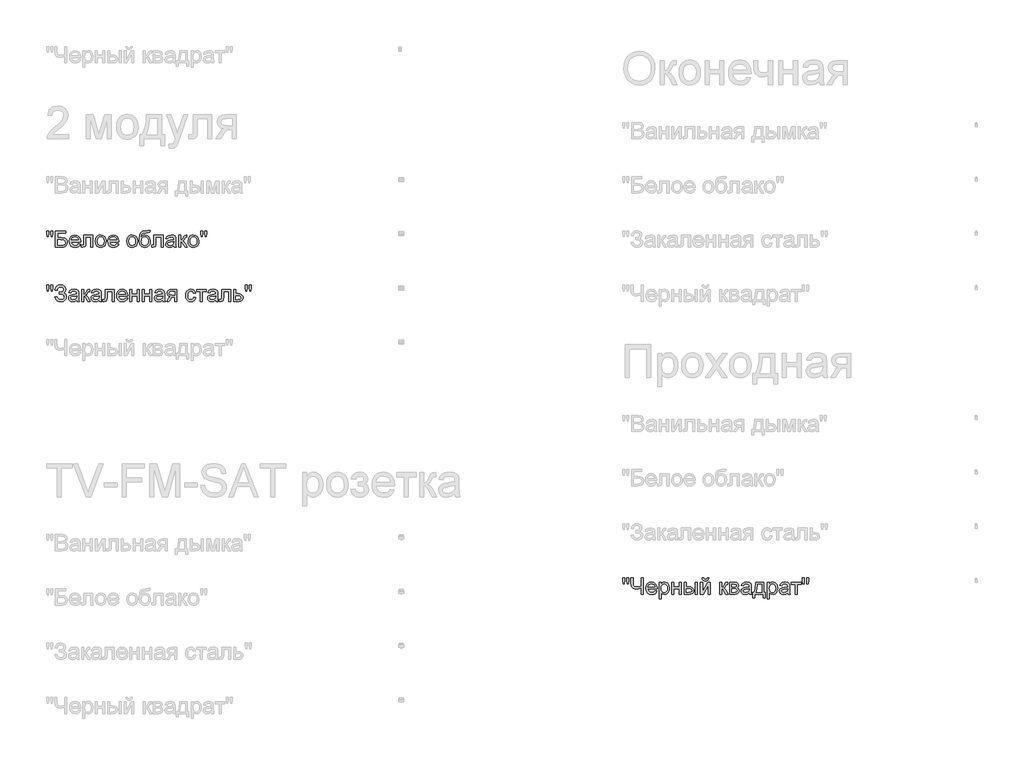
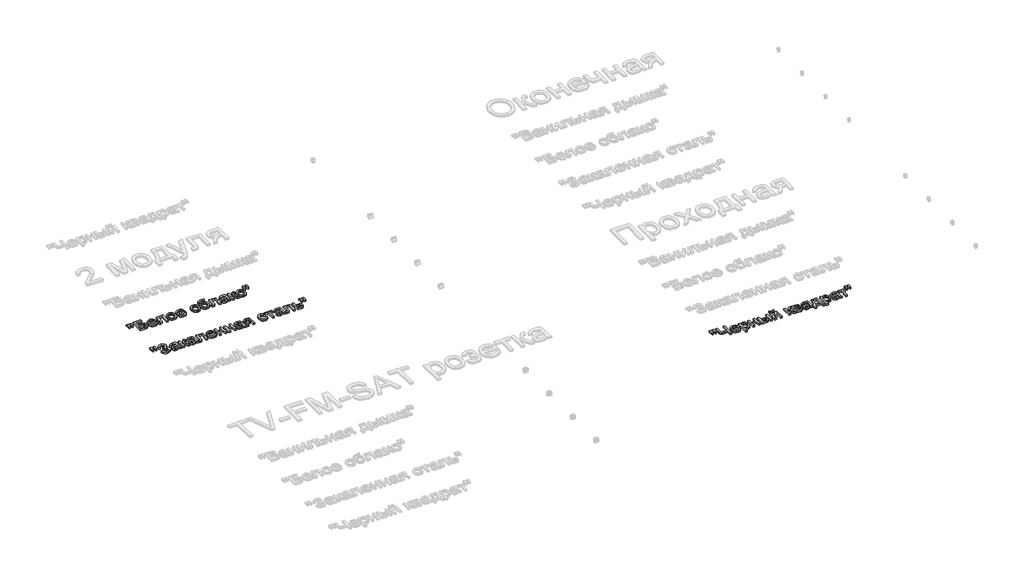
# One storey, part 22 of 168: 3 proxies.
"""IFC4 building model written with IfcOpenShell, lengths in millimetres."""

from ifc_helpers import new_model, si_unit, origin, origin_with_axes, place, context, project, spatial, polyline, outline, extrude, element, save

model = new_model("IFC4")

# Units and contexts
model_context = context("Model", 3, world=origin())
ifc_project = project(units=[si_unit("LENGTHUNIT", "METRE", prefix="MILLI")], contexts=[model_context])

# Site, building, storey
site = spatial("IfcSite", under=ifc_project)
building = spatial("IfcBuilding", under=site)
storey = spatial("IfcBuildingStorey", under=building, Name="Этаж 01", Elevation=0.0)

# Proxies
placement = place(None, origin())
element("IfcBuildingElementProxy", 1, Name="150", ObjectType="150", at=placement, inside=storey, context=model_context, shape_type="SweptSolid", body=[
    extrude(outline(polyline([(49080.1485789, -52170.3300622), (49075.550054, -52141.2305964), (49075.550054, -52116.1778325), (49094.3856121, -52116.1778325), (49094.3856121, -52141.2305964), (49090.2653338, -52170.3300622), (49080.1485789, -52170.3300622)])), origin_with_axes(), (0.0, 0.0, 1.0), 20.0),
    extrude(outline(polyline([(49117.7093306, -52170.3300622), (49113.2211703, -52141.2305964), (49113.2211703, -52116.1778325), (49132.0567284, -52116.1778325), (49132.0567284, -52141.2305964), (49127.6421445, -52170.3300622), (49117.7093306, -52170.3300622)])), origin_with_axes(), (0.0, 0.0, 1.0), 20.0),
    extrude(outline(polyline([(49157.9556209, -52116.1778325), (49252.1334117, -52116.1778325), (49252.1334117, -52135.0133907), (49176.791179, -52135.0133907), (49176.791179, -52179.7478413), (49212.0710624, -52179.7478413), (49243.157091, -52183.573814), (49253.5589544, -52189.101241), (49261.6615553, -52198.0315764), (49266.8762826, -52209.5278888), (49268.614525, -52222.7532465), (49263.6665122, -52244.2191609), (49248.8960501, -52260.5347274), (49235.6247071, -52265.2804052), (49215.4555767, -52266.8622977), (49157.9556209, -52266.8622977), (49157.9556209, -52116.1778325)]), holes=[polyline([(49176.791179, -52248.0267396), (49217.1478339, -52248.0267396), (49231.4124583, -52246.4724382), (49241.6119866, -52241.8095339), (49247.7372218, -52234.0380267), (49249.7789669, -52223.1579167), (49245.1068655, -52208.4058487), (49232.102237, -52200.533174), (49203.7201411, -52198.5833994), (49176.791179, -52198.5833994), (49176.791179, -52248.0267396)])]), origin_with_axes(), (0.0, 0.0, 1.0), 20.0),
    extrude(outline(polyline([(49369.6349209, -52233.900071), (49388.1025971, -52236.2545157), (49381.4485315, -52250.1696522), (49370.8305374, -52260.5715156), (49356.4877381, -52267.0554358), (49338.6592569, -52269.2167425), (49316.5587461, -52265.4873388), (49299.5534008, -52254.2991276), (49288.710079, -52236.3786759), (49285.0956384, -52212.4525506), (49288.7468672, -52187.7216835), (49299.7005536, -52169.2264162), (49316.4759726, -52157.6933157), (49337.5923991, -52153.8489488), (49358.0512366, -52157.6841186), (49374.3989927, -52169.189628), (49385.1181544, -52187.6481071), (49388.6912083, -52212.342186), (49388.5808437, -52217.4189576), (49303.9311966, -52217.4189576), (49307.1915508, -52231.518035), (49314.7653213, -52241.8831103), (49325.6960151, -52248.2566658), (49339.0271389, -52250.3811843), (49357.4948151, -52246.444847), (49369.6349209, -52233.900071)]), holes=[polyline([(49303.9311966, -52198.5833994), (49369.8556501, -52198.5833994), (49367.3080673, -52188.6321915), (49362.3140692, -52181.5136749), (49351.3327917, -52174.8917989), (49337.5188227, -52172.684507), (49324.8222954, -52174.445742), (49314.3238629, -52179.7294472), (49307.0260039, -52187.9654053), (49303.9311966, -52198.5833994)])]), origin_with_axes(), (0.0, 0.0, 1.0), 20.0),
    extrude(outline(polyline([(49416.9445455, -52156.2033936), (49501.7045572, -52156.2033936), (49501.7045572, -52266.7519331), (49482.868999, -52266.7519331), (49482.868999, -52175.0389517), (49435.7801036, -52175.0389517), (49435.7801036, -52227.830018), (49434.5109108, -52252.1838061), (49427.539547, -52262.4661079), (49411.0584336, -52266.8622977), (49395.7545426, -52265.9058045), (49395.7545426, -52248.0267396), (49404.1790403, -52248.0267396), (49412.6955084, -52246.8679113), (49416.0984169, -52243.1890913), (49416.9445455, -52226.7631603), (49416.9445455, -52156.2033936)])), origin_with_axes(), (0.0, 0.0, 1.0), 20.0),
    extrude(outline(polyline([(49525.2490049, -52211.5328457), (49529.323298, -52184.852204), (49541.5461773, -52166.0994193), (49556.6477332, -52156.9115664), (49574.7291332, -52153.8489488), (49594.516586, -52157.5783525), (49610.3217163, -52168.7665637), (49620.6821929, -52186.5306656), (49624.1356852, -52209.9877413), (49622.6089749, -52229.0164375), (49618.0288441, -52243.501791), (49610.5286499, -52254.3497114), (49600.2417496, -52262.4661079), (49588.0234688, -52267.5290839), (49574.7291332, -52269.2167425), (49554.7025571, -52265.5011344), (49538.915821, -52254.3543099), (49528.6657089, -52236.2177275), (49525.2490049, -52211.5328457)]), holes=[polyline([(49544.084563, -52211.4960575), (49546.2642638, -52228.5427894), (49552.8033663, -52240.6874938), (49562.6442097, -52247.9577617), (49574.7291332, -52250.3811843), (49586.7588745, -52247.9439661), (49596.5813237, -52240.6323115), (49603.1204262, -52228.3266587), (49605.300127, -52210.9074463), (49603.1066306, -52194.357355), (49596.5261414, -52182.3781975), (49586.6898966, -52175.1079296), (49574.7291332, -52172.684507), (49562.6442097, -52175.0987326), (49552.8033663, -52182.3414093), (49546.2642638, -52194.4585226), (49544.084563, -52211.4960575)])]), origin_with_axes(), (0.0, 0.0, 1.0), 20.0),
    extrude(outline(polyline([(49722.8016363, -52233.900071), (49741.2693124, -52236.2545157), (49734.6152469, -52250.1696522), (49723.9972528, -52260.5715156), (49709.6544535, -52267.0554358), (49691.8259723, -52269.2167425), (49669.7254614, -52265.4873388), (49652.7201162, -52254.2991276), (49641.8767944, -52236.3786759), (49638.2623538, -52212.4525506), (49641.9135826, -52187.7216835), (49652.867269, -52169.2264162), (49669.642688, -52157.6933157), (49690.7591145, -52153.8489488), (49711.217952, -52157.6841186), (49727.5657081, -52169.189628), (49738.2848698, -52187.6481071), (49741.8579236, -52212.342186), (49741.747559, -52217.4189576), (49657.0979119, -52217.4189576), (49660.3582661, -52231.518035), (49667.9320367, -52241.8831103), (49678.8627305, -52248.2566658), (49692.1938543, -52250.3811843), (49710.6615304, -52246.444847), (49722.8016363, -52233.900071)]), holes=[polyline([(49657.0979119, -52198.5833994), (49723.0223655, -52198.5833994), (49720.4747827, -52188.6321915), (49715.4807846, -52181.5136749), (49704.499507, -52174.8917989), (49690.6855381, -52172.684507), (49677.9890107, -52174.445742), (49667.4905783, -52179.7294472), (49660.1927192, -52187.9654053), (49657.0979119, -52198.5833994)])]), origin_with_axes(), (0.0, 0.0, 1.0), 20.0),
    extrude(outline(polyline([(49814.8457115, -52211.5328457), (49818.9200046, -52184.852204), (49831.1428839, -52166.0994193), (49846.2444398, -52156.9115664), (49864.3258398, -52153.8489488), (49884.1132926, -52157.5783525), (49899.9184229, -52168.7665637), (49910.2788995, -52186.5306656), (49913.7323918, -52209.9877413), (49912.2056815, -52229.0164375), (49907.6255507, -52243.501791), (49900.1253565, -52254.3497114), (49889.8384562, -52262.4661079), (49877.6201754, -52267.5290839), (49864.3258398, -52269.2167425), (49844.2992637, -52265.5011344), (49828.5125276, -52254.3543099), (49818.2624155, -52236.2177275), (49814.8457115, -52211.5328457)]), holes=[polyline([(49833.6812696, -52211.4960575), (49835.8609704, -52228.5427894), (49842.4000729, -52240.6874938), (49852.2409163, -52247.9577617), (49864.3258398, -52250.3811843), (49876.3555811, -52247.9439661), (49886.1780303, -52240.6323115), (49892.7171328, -52228.3266587), (49894.8968336, -52210.9074463), (49892.7033372, -52194.357355), (49886.122848, -52182.3781975), (49876.2866032, -52175.1079296), (49864.3258398, -52172.684507), (49852.2409163, -52175.0987326), (49842.4000729, -52182.3414093), (49835.8609704, -52194.4585226), (49833.6812696, -52211.4960575)])]), origin_with_axes(), (0.0, 0.0, 1.0), 20.0),
    extrude(outline(polyline([(50012.6190721, -52113.8233877), (50029.1001855, -52113.8233877), (50024.2441431, -52128.5202734), (50014.6424231, -52133.8361683), (49991.576222, -52135.0133907), (49960.5085875, -52139.3543982), (49953.3808738, -52145.0013868), (49948.5892108, -52153.2603376), (49944.560903, -52177.8716431), (49960.8764695, -52159.8454253), (49970.7954878, -52155.3480679), (49981.9009255, -52153.8489488), (50001.4998388, -52157.661126), (50017.401538, -52169.0976575), (50027.9413572, -52187.0365033), (50031.4546302, -52210.3556233), (50029.7117893, -52228.3358558), (50024.4832664, -52242.766027), (50007.9469707, -52262.3189551), (49996.6529935, -52267.4922957), (49981.9009255, -52269.2167425), (49964.9001788, -52266.995655), (49952.1576662, -52260.3323923), (49942.7812738, -52250.2064404), (49935.8788879, -52237.597285), (49931.6298508, -52218.6099755), (49930.2135052, -52189.3495614), (49933.786559, -52153.2097538), (49944.5057207, -52131.1690238), (49962.6377045, -52119.9256303), (49988.449225, -52116.1778325), (50009.4184987, -52115.7547682), (50012.6190721, -52113.8233877)]), holes=[polyline([(50012.6190721, -52209.7670121), (50010.577327, -52194.9459662), (50004.4520918, -52183.0771733), (49994.6112484, -52175.2826736), (49981.4226789, -52172.684507), (49967.6730893, -52175.4298264), (49957.473561, -52183.6657845), (49951.1551877, -52196.4910706), (49949.0490633, -52213.0043736), (49951.3759169, -52229.011839), (49958.3564778, -52240.7610702), (49968.7491442, -52247.9761558), (49981.3123143, -52250.3811843), (49993.9398638, -52247.5990768), (50003.937057, -52239.252754), (50010.4485683, -52226.3171033), (50012.6190721, -52209.7670121)])]), origin_with_axes(), (0.0, 0.0, 1.0), 20.0),
    extrude(outline(polyline([(50064.416857, -52156.2033936), (50149.1768687, -52156.2033936), (50149.1768687, -52266.7519331), (50130.3413105, -52266.7519331), (50130.3413105, -52175.0389517), (50083.2524152, -52175.0389517), (50083.2524152, -52227.830018), (50081.9832223, -52252.1838061), (50075.0118585, -52262.4661079), (50058.5307451, -52266.8622977), (50043.2268541, -52265.9058045), (50043.2268541, -52248.0267396), (50051.6513518, -52248.0267396), (50060.16782, -52246.8679113), (50063.5707284, -52243.1890913), (50064.416857, -52226.7631603), (50064.416857, -52156.2033936)])), origin_with_axes(), (0.0, 0.0, 1.0), 20.0),
    extrude(outline(polyline([(50248.063549, -52252.7356291), (50229.7982079, -52265.5011344), (50209.6198805, -52269.2167425), (50193.8791296, -52266.9818594), (50182.2678542, -52260.27721), (50175.1079508, -52250.0960758), (50172.7213164, -52237.4317381), (50176.3265599, -52222.5325173), (50185.7995213, -52211.7167867), (50198.9880908, -52205.5363691), (50215.2852632, -52202.7036778), (50247.9531844, -52196.2289547), (50248.063549, -52192.0350999), (50246.766765, -52183.6289963), (50242.8764129, -52178.1291605), (50234.1760037, -52174.0456704), (50222.0542919, -52172.684507), (50202.9980046, -52176.3081446), (50193.9113193, -52189.1656204), (50175.0757612, -52186.8111756), (50183.2243473, -52168.4170758), (50199.6318843, -52157.6381334), (50224.4823131, -52153.8489488), (50247.3093909, -52157.196675), (50260.2036548, -52165.6027786), (50265.9794022, -52178.3866779), (50266.8991071, -52194.8677913), (50266.8991071, -52218.3018744), (50267.8556003, -52251.0249778), (50271.6079967, -52266.8622977), (50252.7724385, -52266.8622977), (50248.063549, -52252.7356291)]), holes=[polyline([(50248.063549, -52215.0645128), (50217.6764962, -52220.8402601), (50201.4712943, -52223.8936807), (50194.1320485, -52228.8600876), (50191.5568745, -52236.1073629), (50197.167075, -52246.2976942), (50213.6297942, -52250.3811843), (50232.6860816, -52245.8746299), (50244.9733402, -52234.9669288), (50247.9531844, -52220.3988017), (50248.063549, -52215.0645128)])]), origin_with_axes(), (0.0, 0.0, 1.0), 20.0),
    extrude(outline(polyline([(50292.7979996, -52156.2033936), (50311.6335578, -52156.2033936), (50311.6335578, -52203.292289), (50324.2519102, -52199.9077746), (50334.5893943, -52180.1892997), (50343.1794388, -52163.1747574), (50350.7578079, -52157.6381334), (50364.5349887, -52156.2033936), (50368.1402322, -52156.2033936), (50368.1402322, -52175.1493163), (50363.0634607, -52175.0389517), (50353.8664108, -52177.0255145), (50347.3916877, -52189.4231377), (50339.7949245, -52202.8324365), (50329.1447407, -52209.3991301), (50341.0273292, -52216.7291788), (50352.6891884, -52232.1710256), (50372.8491218, -52266.8622977), (50351.4383896, -52266.8622977), (50331.6831265, -52232.9067896), (50321.7503126, -52218.5409977), (50311.6335578, -52215.0645128), (50311.6335578, -52266.8622977), (50292.7979996, -52266.8622977), (50292.7979996, -52156.2033936)])), origin_with_axes(), (0.0, 0.0, 1.0), 20.0),
    extrude(outline(polyline([(50379.9124561, -52211.5328457), (50383.9867492, -52184.852204), (50396.2096285, -52166.0994193), (50411.3111844, -52156.9115664), (50429.3925844, -52153.8489488), (50449.1800372, -52157.5783525), (50464.9851674, -52168.7665637), (50475.3456441, -52186.5306656), (50478.7991364, -52209.9877413), (50477.2724261, -52229.0164375), (50472.6922952, -52243.501791), (50465.1921011, -52254.3497114), (50454.9052008, -52262.4661079), (50442.68692, -52267.5290839), (50429.3925844, -52269.2167425), (50409.3660083, -52265.5011344), (50393.5792722, -52254.3543099), (50383.3291601, -52236.2177275), (50379.9124561, -52211.5328457)]), holes=[polyline([(50398.7480142, -52211.4960575), (50400.927715, -52228.5427894), (50407.4668175, -52240.6874938), (50417.3076609, -52247.9577617), (50429.3925844, -52250.3811843), (50441.4223257, -52247.9439661), (50451.2447749, -52240.6323115), (50457.7838774, -52228.3266587), (50459.9635782, -52210.9074463), (50457.7700818, -52194.357355), (50451.1895926, -52182.3781975), (50441.3533478, -52175.1079296), (50429.3925844, -52172.684507), (50417.3076609, -52175.0987326), (50407.4668175, -52182.3414093), (50400.927715, -52194.4585226), (50398.7480142, -52211.4960575)])]), origin_with_axes(), (0.0, 0.0, 1.0), 20.0),
    extrude(outline(polyline([(50499.8787747, -52170.3300622), (50495.2802498, -52141.2305964), (50495.2802498, -52116.1778325), (50514.1158079, -52116.1778325), (50514.1158079, -52141.2305964), (50509.9955296, -52170.3300622), (50499.8787747, -52170.3300622)])), origin_with_axes(), (0.0, 0.0, 1.0), 20.0),
    extrude(outline(polyline([(50537.4395264, -52170.3300622), (50532.9513661, -52141.2305964), (50532.9513661, -52116.1778325), (50551.7869242, -52116.1778325), (50551.7869242, -52141.2305964), (50547.3723403, -52170.3300622), (50537.4395264, -52170.3300622)])), origin_with_axes(), (0.0, 0.0, 1.0), 20.0),
])
element("IfcBuildingElementProxy", 2, Name="150", ObjectType="150", at=placement, inside=storey, context=model_context, shape_type="SweptSolid", body=[
    extrude(outline(polyline([(49080.1485789, -52670.3300622), (49075.550054, -52641.2305964), (49075.550054, -52616.1778325), (49094.3856121, -52616.1778325), (49094.3856121, -52641.2305964), (49090.2653338, -52670.3300622), (49080.1485789, -52670.3300622)])), origin_with_axes(), (0.0, 0.0, 1.0), 20.0),
    extrude(outline(polyline([(49117.7093306, -52670.3300622), (49113.2211703, -52641.2305964), (49113.2211703, -52616.1778325), (49132.0567284, -52616.1778325), (49132.0567284, -52641.2305964), (49127.6421445, -52670.3300622), (49117.7093306, -52670.3300622)])), origin_with_axes(), (0.0, 0.0, 1.0), 20.0),
    extrude(outline(polyline([(49150.8922866, -52724.4822919), (49169.7278447, -52719.7734024), (49181.2977335, -52740.172459), (49192.2284273, -52747.829003), (49206.2217387, -52750.3811843), (49220.398991, -52748.4635995), (49231.2193202, -52742.7108448), (49238.0757209, -52734.2449603), (49240.3611878, -52724.1879863), (49237.8641888, -52713.6527657), (49230.3731916, -52705.517975), (49218.5779752, -52700.3170433), (49203.1683181, -52698.5833994), (49193.2722924, -52698.5833994), (49193.2722924, -52679.7478413), (49214.591054, -52678.221131), (49227.6324708, -52670.4220327), (49233.2978535, -52656.1666054), (49231.4124583, -52647.2960508), (49225.7562726, -52639.6670979), (49216.8811195, -52634.4109839), (49205.3388219, -52632.6589459), (49186.1169876, -52638.0484171), (49175.117316, -52652.3406326), (49172.0822895, -52665.6211727), (49153.2467313, -52660.9122831), (49159.0983543, -52640.3108914), (49169.7002536, -52625.5956116), (49185.0524291, -52616.7664437), (49205.1548809, -52613.8233877), (49224.5468605, -52616.8814068), (49239.4598769, -52626.0554641), (49248.965028, -52639.3222085), (49252.1334117, -52654.6582892), (49247.2037929, -52673.3007093), (49232.4149367, -52687.2158458), (49242.8903765, -52692.0396984), (49251.5080123, -52700.1836861), (49257.2745625, -52710.948833), (49259.196746, -52723.6361633), (49255.508729, -52741.4738415), (49244.444678, -52756.1385376), (49227.2921799, -52765.9471913), (49205.3388219, -52769.2167425), (49186.2365493, -52766.4208393), (49170.7947025, -52758.0331298), (49159.0132816, -52744.053614), (49150.8922866, -52724.4822919)])), origin_with_axes(), (0.0, 0.0, 1.0), 20.0),
    extrude(outline(polyline([(49353.3745367, -52752.7356291), (49335.1091957, -52765.5011344), (49314.9308682, -52769.2167425), (49299.1901174, -52766.9818594), (49287.5788419, -52760.27721), (49280.4189386, -52750.0960758), (49278.0323041, -52737.4317381), (49281.6375477, -52722.5325173), (49291.110509, -52711.7167867), (49304.2990786, -52705.5363691), (49320.596251, -52702.7036778), (49353.2641721, -52696.2289547), (49353.3745367, -52692.0350999), (49352.0777527, -52683.6289963), (49348.1874006, -52678.1291605), (49339.4869914, -52674.0456704), (49327.3652797, -52672.684507), (49308.3089923, -52676.3081446), (49299.222307, -52689.1656204), (49280.3867489, -52686.8111756), (49288.5353351, -52668.4170758), (49304.9428721, -52657.6381334), (49329.7933008, -52653.8489488), (49352.6203786, -52657.196675), (49365.5146426, -52665.6027786), (49371.2903899, -52678.3866779), (49372.2100949, -52694.8677913), (49372.2100949, -52718.3018744), (49373.1665881, -52751.0249778), (49376.9189844, -52766.8622977), (49358.0834263, -52766.8622977), (49353.3745367, -52752.7356291)]), holes=[polyline([(49353.3745367, -52715.0645128), (49322.9874839, -52720.8402601), (49306.782282, -52723.8936807), (49299.4430362, -52728.8600876), (49296.8678623, -52736.1073629), (49302.4780627, -52746.2976942), (49318.940782, -52750.3811843), (49337.9970693, -52745.8746299), (49350.284328, -52734.9669288), (49353.2641721, -52720.3988017), (49353.3745367, -52715.0645128)])]), origin_with_axes(), (0.0, 0.0, 1.0), 20.0),
    extrude(outline(polyline([(49398.1089873, -52656.2033936), (49416.9445455, -52656.2033936), (49416.9445455, -52703.292289), (49429.5628979, -52699.9077746), (49439.900382, -52680.1892997), (49448.4904266, -52663.1747574), (49456.0687957, -52657.6381334), (49469.8459764, -52656.2033936), (49473.4512199, -52656.2033936), (49473.4512199, -52675.1493163), (49468.3744484, -52675.0389517), (49459.1773985, -52677.0255145), (49452.7026754, -52689.4231377), (49445.1059122, -52702.8324365), (49434.4557285, -52709.3991301), (49446.3383169, -52716.7291788), (49458.0001762, -52732.1710256), (49478.1601095, -52766.8622977), (49456.7493774, -52766.8622977), (49436.9941142, -52732.9067896), (49427.0613004, -52718.5409977), (49416.9445455, -52715.0645128), (49416.9445455, -52766.8622977), (49398.1089873, -52766.8622977), (49398.1089873, -52656.2033936)])), origin_with_axes(), (0.0, 0.0, 1.0), 20.0),
    extrude(outline(polyline([(49560.5656764, -52752.7356291), (49542.3003353, -52765.5011344), (49522.1220079, -52769.2167425), (49506.381257, -52766.9818594), (49494.7699816, -52760.27721), (49487.6100782, -52750.0960758), (49485.2234438, -52737.4317381), (49488.8286873, -52722.5325173), (49498.3016487, -52711.7167867), (49511.4902183, -52705.5363691), (49527.7873906, -52702.7036778), (49560.4553118, -52696.2289547), (49560.5656764, -52692.0350999), (49559.2688924, -52683.6289963), (49555.3785403, -52678.1291605), (49546.6781311, -52674.0456704), (49534.5564193, -52672.684507), (49515.500132, -52676.3081446), (49506.4134467, -52689.1656204), (49487.5778886, -52686.8111756), (49495.7264748, -52668.4170758), (49512.1340117, -52657.6381334), (49536.9844405, -52653.8489488), (49559.8115183, -52657.196675), (49572.7057822, -52665.6027786), (49578.4815296, -52678.3866779), (49579.4012346, -52694.8677913), (49579.4012346, -52718.3018744), (49580.3577277, -52751.0249778), (49584.1101241, -52766.8622977), (49565.2745659, -52766.8622977), (49560.5656764, -52752.7356291)]), holes=[polyline([(49560.5656764, -52715.0645128), (49530.1786236, -52720.8402601), (49513.9734217, -52723.8936807), (49506.6341759, -52728.8600876), (49504.0590019, -52736.1073629), (49509.6692024, -52746.2976942), (49526.1319217, -52750.3811843), (49545.188209, -52745.8746299), (49557.4754676, -52734.9669288), (49560.4553118, -52720.3988017), (49560.5656764, -52715.0645128)])]), origin_with_axes(), (0.0, 0.0, 1.0), 20.0),
    extrude(outline(polyline([(49614.7179061, -52656.2033936), (49699.4779178, -52656.2033936), (49699.4779178, -52766.7519331), (49680.6423596, -52766.7519331), (49680.6423596, -52675.0389517), (49633.5534643, -52675.0389517), (49633.5534643, -52727.830018), (49632.2842714, -52752.1838061), (49625.3129076, -52762.4661079), (49608.8317942, -52766.8622977), (49593.5279032, -52765.9058045), (49593.5279032, -52748.0267396), (49601.9524009, -52748.0267396), (49610.4688691, -52746.8679113), (49613.8717775, -52743.1890913), (49614.7179061, -52726.7631603), (49614.7179061, -52656.2033936)])), origin_with_axes(), (0.0, 0.0, 1.0), 20.0),
    extrude(outline(polyline([(49805.2072032, -52733.900071), (49823.6748794, -52736.2545157), (49817.0208138, -52750.1696522), (49806.4028197, -52760.5715156), (49792.0600204, -52767.0554358), (49774.2315392, -52769.2167425), (49752.1310283, -52765.4873388), (49735.1256831, -52754.2991276), (49724.2823613, -52736.3786759), (49720.6679207, -52712.4525506), (49724.3191495, -52687.7216835), (49735.2728359, -52669.2264162), (49752.0482549, -52657.6933157), (49773.1646814, -52653.8489488), (49793.6235189, -52657.6841186), (49809.971275, -52669.189628), (49820.6904367, -52687.6481071), (49824.2634906, -52712.342186), (49824.153126, -52717.4189576), (49739.5034789, -52717.4189576), (49742.763833, -52731.518035), (49750.3376036, -52741.8831103), (49761.2682974, -52748.2566658), (49774.5994212, -52750.3811843), (49793.0670974, -52746.444847), (49805.2072032, -52733.900071)]), holes=[polyline([(49739.5034789, -52698.5833994), (49805.4279324, -52698.5833994), (49802.8803496, -52688.6321915), (49797.8863515, -52681.5136749), (49786.9050739, -52674.8917989), (49773.091105, -52672.684507), (49760.3945777, -52674.445742), (49749.8961452, -52679.7294472), (49742.5982861, -52687.9654053), (49739.5034789, -52698.5833994)])]), origin_with_axes(), (0.0, 0.0, 1.0), 20.0),
    extrude(outline(polyline([(49843.0990487, -52656.2033936), (49861.9346069, -52656.2033936), (49861.9346069, -52698.5833994), (49911.377947, -52698.5833994), (49911.377947, -52656.2033936), (49930.2135052, -52656.2033936), (49930.2135052, -52766.8622977), (49911.377947, -52766.8622977), (49911.377947, -52717.4189576), (49861.9346069, -52717.4189576), (49861.9346069, -52766.8622977), (49843.0990487, -52766.8622977), (49843.0990487, -52656.2033936)])), origin_with_axes(), (0.0, 0.0, 1.0), 20.0),
    extrude(outline(polyline([(49958.4668424, -52656.2033936), (49977.3024005, -52656.2033936), (49977.3024005, -52698.5833994), (50026.7457407, -52698.5833994), (50026.7457407, -52656.2033936), (50045.5812988, -52656.2033936), (50045.5812988, -52766.8622977), (50026.7457407, -52766.8622977), (50026.7457407, -52717.4189576), (49977.3024005, -52717.4189576), (49977.3024005, -52766.8622977), (49958.4668424, -52766.8622977), (49958.4668424, -52656.2033936)])), origin_with_axes(), (0.0, 0.0, 1.0), 20.0),
    extrude(outline(polyline([(50144.4679792, -52752.7356291), (50126.2026381, -52765.5011344), (50106.0243107, -52769.2167425), (50090.2835598, -52766.9818594), (50078.6722843, -52760.27721), (50071.512381, -52750.0960758), (50069.1257465, -52737.4317381), (50072.7309901, -52722.5325173), (50082.2039515, -52711.7167867), (50095.392521, -52705.5363691), (50111.6896934, -52702.7036778), (50144.3576146, -52696.2289547), (50144.4679792, -52692.0350999), (50143.1711951, -52683.6289963), (50139.280843, -52678.1291605), (50130.5804338, -52674.0456704), (50118.4587221, -52672.684507), (50099.4024347, -52676.3081446), (50090.3157495, -52689.1656204), (50071.4801913, -52686.8111756), (50079.6287775, -52668.4170758), (50096.0363145, -52657.6381334), (50120.8867433, -52653.8489488), (50143.7138211, -52657.196675), (50156.608085, -52665.6027786), (50162.3838323, -52678.3866779), (50163.3035373, -52694.8677913), (50163.3035373, -52718.3018744), (50164.2600305, -52751.0249778), (50168.0124268, -52766.8622977), (50149.1768687, -52766.8622977), (50144.4679792, -52752.7356291)]), holes=[polyline([(50144.4679792, -52715.0645128), (50114.0809264, -52720.8402601), (50097.8757245, -52723.8936807), (50090.5364787, -52728.8600876), (50087.9613047, -52736.1073629), (50093.5715051, -52746.2976942), (50110.0342244, -52750.3811843), (50129.0905118, -52745.8746299), (50141.3777704, -52734.9669288), (50144.3576146, -52720.3988017), (50144.4679792, -52715.0645128)])]), origin_with_axes(), (0.0, 0.0, 1.0), 20.0),
    extrude(outline(polyline([(50273.9624415, -52656.2033936), (50273.9624415, -52766.8622977), (50255.1268833, -52766.8622977), (50255.1268833, -52724.4822919), (50244.8629756, -52724.4822919), (50230.8834598, -52726.8735249), (50217.7500726, -52742.949968), (50202.7404872, -52766.8622977), (50180.9618731, -52766.8622977), (50199.8710076, -52736.6223977), (50208.2219289, -52725.7698789), (50215.9106626, -52720.9506247), (50203.0347928, -52717.0050903), (50193.9848957, -52709.5094947), (50188.6322127, -52699.5398926), (50186.847985, -52688.172339), (50189.2852032, -52675.278075), (50196.5968579, -52665.0693497), (50208.5254316, -52658.4198826), (50224.8134069, -52656.2033936), (50273.9624415, -52656.2033936)]), holes=[polyline([(50255.1268833, -52675.0389517), (50230.2948486, -52675.0389517), (50217.4695626, -52676.1288021), (50210.1900976, -52679.3983534), (50205.6835431, -52689.6070787), (50207.3436107, -52696.7853762), (50212.3238132, -52701.7655787), (50235.8498668, -52705.6467337), (50255.1268833, -52705.6467337), (50255.1268833, -52675.0389517)])]), origin_with_axes(), (0.0, 0.0, 1.0), 20.0),
    extrude(outline(polyline([(50431.710241, -52726.8367367), (50450.5457991, -52729.1911814), (50445.2942837, -52745.9436078), (50435.4258491, -52758.6033469), (50421.8693976, -52766.5633936), (50405.5538311, -52769.2167425), (50385.518058, -52765.5149299), (50369.8508835, -52754.4094922), (50359.7387272, -52736.387873), (50356.3680084, -52711.9375159), (50357.8073467, -52695.1758924), (50362.1253616, -52680.6491522), (50369.391031, -52668.918315), (50379.6733328, -52660.5444011), (50391.974387, -52655.5228119), (50405.2963137, -52653.8489488), (50421.2118085, -52656.1482113), (50433.9359271, -52663.0459987), (50443.0639991, -52674.174429), (50448.1913544, -52689.1656204), (50429.3557962, -52691.5200651), (50420.6185988, -52677.4117906), (50405.4434665, -52672.684507), (50393.271171, -52675.0113606), (50383.6096701, -52681.9919214), (50377.3050924, -52694.0032686), (50375.2035665, -52711.4224811), (50377.2591072, -52729.0762183), (50383.4257291, -52741.1289522), (50392.9124861, -52748.0681263), (50404.9284317, -52750.3811843), (50414.6819031, -52748.9372475), (50422.678738, -52744.605437), (50428.4958721, -52737.2753883), (50431.710241, -52726.8367367)])), origin_with_axes(), (0.0, 0.0, 1.0), 20.0),
    extrude(outline(polyline([(50457.6091334, -52656.2033936), (50547.0780347, -52656.2033936), (50547.0780347, -52675.0389517), (50511.7613631, -52675.0389517), (50511.7613631, -52766.8622977), (50492.925805, -52766.8622977), (50492.925805, -52675.0389517), (50457.6091334, -52675.0389517), (50457.6091334, -52656.2033936)])), origin_with_axes(), (0.0, 0.0, 1.0), 20.0),
    extrude(outline(polyline([(50634.1924911, -52752.7356291), (50615.9271501, -52765.5011344), (50595.7488226, -52769.2167425), (50580.0080718, -52766.9818594), (50568.3967963, -52760.27721), (50561.236893, -52750.0960758), (50558.8502585, -52737.4317381), (50562.4555021, -52722.5325173), (50571.9284634, -52711.7167867), (50585.117033, -52705.5363691), (50601.4142054, -52702.7036778), (50634.0821265, -52696.2289547), (50634.1924911, -52692.0350999), (50632.8957071, -52683.6289963), (50629.005355, -52678.1291605), (50620.3049458, -52674.0456704), (50608.1832341, -52672.684507), (50589.1269467, -52676.3081446), (50580.0402614, -52689.1656204), (50561.2047033, -52686.8111756), (50569.3532895, -52668.4170758), (50585.7608265, -52657.6381334), (50610.6112552, -52653.8489488), (50633.438333, -52657.196675), (50646.332597, -52665.6027786), (50652.1083443, -52678.3866779), (50653.0280493, -52694.8677913), (50653.0280493, -52718.3018744), (50653.9845425, -52751.0249778), (50657.7369388, -52766.8622977), (50638.9013807, -52766.8622977), (50634.1924911, -52752.7356291)]), holes=[polyline([(50634.1924911, -52715.0645128), (50603.8054383, -52720.8402601), (50587.6002364, -52723.8936807), (50580.2609906, -52728.8600876), (50577.6858167, -52736.1073629), (50583.2960171, -52746.2976942), (50599.7587364, -52750.3811843), (50618.8150237, -52745.8746299), (50631.1022824, -52734.9669288), (50634.0821265, -52720.3988017), (50634.1924911, -52715.0645128)])]), origin_with_axes(), (0.0, 0.0, 1.0), 20.0),
    extrude(outline(polyline([(50688.3447208, -52656.2033936), (50773.1047325, -52656.2033936), (50773.1047325, -52766.7519331), (50754.2691744, -52766.7519331), (50754.2691744, -52675.0389517), (50707.180279, -52675.0389517), (50707.180279, -52727.830018), (50705.9110861, -52752.1838061), (50698.9397223, -52762.4661079), (50682.4586089, -52766.8622977), (50667.1547179, -52765.9058045), (50667.1547179, -52748.0267396), (50675.5792156, -52748.0267396), (50684.0956838, -52746.8679113), (50687.4985922, -52743.1890913), (50688.3447208, -52726.7631603), (50688.3447208, -52656.2033936)])), origin_with_axes(), (0.0, 0.0, 1.0), 20.0),
    extrude(outline(polyline([(50801.3580697, -52656.2033936), (50820.1936279, -52656.2033936), (50820.1936279, -52696.2289547), (50841.8986656, -52696.2289547), (50860.7158297, -52698.587998), (50874.6401632, -52705.6651278), (50883.2486019, -52716.8901272), (50886.1180814, -52731.692779), (50883.6762647, -52745.1710556), (50876.3508145, -52756.5432078), (50863.6542871, -52764.2825252), (50845.099239, -52766.8622977), (50801.3580697, -52766.8622977), (50801.3580697, -52656.2033936)]), holes=[polyline([(50820.1936279, -52748.0267396), (50837.7783873, -52748.0267396), (50860.4951005, -52744.0720081), (50865.5856676, -52739.0090322), (50867.2825233, -52731.7295672), (50862.260934, -52720.1412843), (50854.1905228, -52716.3337057), (50840.0224674, -52715.0645128), (50820.1936279, -52715.0645128), (50820.1936279, -52748.0267396)])]), origin_with_axes(), (0.0, 0.0, 1.0), 20.0),
    extrude(outline(polyline([(50909.5521645, -52670.3300622), (50904.9536396, -52641.2305964), (50904.9536396, -52616.1778325), (50923.7891977, -52616.1778325), (50923.7891977, -52641.2305964), (50919.6689194, -52670.3300622), (50909.5521645, -52670.3300622)])), origin_with_axes(), (0.0, 0.0, 1.0), 20.0),
    extrude(outline(polyline([(50947.1129162, -52670.3300622), (50942.6247559, -52641.2305964), (50942.6247559, -52616.1778325), (50961.460314, -52616.1778325), (50961.460314, -52641.2305964), (50957.0457301, -52670.3300622), (50947.1129162, -52670.3300622)])), origin_with_axes(), (0.0, 0.0, 1.0), 20.0),
])
element("IfcBuildingElementProxy", 3, Name="150", ObjectType="150", at=placement, inside=storey, context=model_context, shape_type="SweptSolid", body=[
    extrude(outline(polyline([(54389.7772739, -55370.3300622), (54385.178749, -55341.2305964), (54385.178749, -55316.1778325), (54404.0143071, -55316.1778325), (54404.0143071, -55341.2305964), (54399.8940288, -55370.3300622), (54389.7772739, -55370.3300622)])), origin_with_axes(), (0.0, 0.0, 1.0), 20.0),
    extrude(outline(polyline([(54427.3380256, -55370.3300622), (54422.8498653, -55341.2305964), (54422.8498653, -55316.1778325), (54441.6854234, -55316.1778325), (54441.6854234, -55341.2305964), (54437.2708395, -55370.3300622), (54427.3380256, -55370.3300622)])), origin_with_axes(), (0.0, 0.0, 1.0), 20.0),
    extrude(outline(polyline([(54573.5343305, -55466.8622977), (54554.6987724, -55466.8622977), (54554.6987724, -55406.5296505), (54529.7195849, -55414.6966308), (54508.0513354, -55417.4189576), (54493.3682452, -55415.556555), (54480.515368, -55409.9693472), (54470.554963, -55401.5172583), (54464.5492894, -55391.0602126), (54460.5209816, -55361.0594359), (54460.5209816, -55316.1778325), (54479.3565398, -55316.1778325), (54479.3565398, -55358.5210502), (54481.619014, -55378.8879171), (54488.4064368, -55390.8394834), (54498.3668419, -55396.6474204), (54510.1482628, -55398.5833994), (54531.8808916, -55396.2473488), (54554.6987724, -55389.2391968), (54554.6987724, -55316.1778325), (54573.5343305, -55316.1778325), (54573.5343305, -55466.8622977)])), origin_with_axes(), (0.0, 0.0, 1.0), 20.0),
    extrude(outline(polyline([(54681.6180607, -55433.900071), (54700.0857369, -55436.2545157), (54693.4316713, -55450.1696522), (54682.8136772, -55460.5715156), (54668.4708779, -55467.0554358), (54650.6423967, -55469.2167425), (54628.5418858, -55465.4873388), (54611.5365406, -55454.2991276), (54600.6932188, -55436.3786759), (54597.0787782, -55412.4525506), (54600.730007, -55387.7216835), (54611.6836934, -55369.2264162), (54628.4591124, -55357.6933157), (54649.5755389, -55353.8489488), (54670.0343764, -55357.6841186), (54686.3821325, -55369.189628), (54697.1012942, -55387.6481071), (54700.6743481, -55412.342186), (54700.5639835, -55417.4189576), (54615.9143364, -55417.4189576), (54619.1746905, -55431.518035), (54626.7484611, -55441.8831103), (54637.6791549, -55448.2566658), (54651.0102787, -55450.3811843), (54669.4779549, -55446.444847), (54681.6180607, -55433.900071)]), holes=[polyline([(54615.9143364, -55398.5833994), (54681.8387899, -55398.5833994), (54679.2912071, -55388.6321915), (54674.297209, -55381.5136749), (54663.3159314, -55374.8917989), (54649.5019625, -55372.684507), (54636.8054352, -55374.445742), (54626.3070027, -55379.7294472), (54619.0091436, -55387.9654053), (54615.9143364, -55398.5833994)])]), origin_with_axes(), (0.0, 0.0, 1.0), 20.0),
    extrude(outline(polyline([(54719.5099062, -55509.2423036), (54719.5099062, -55356.2033936), (54738.3454644, -55356.2033936), (54738.3454644, -55374.6710697), (54751.368487, -55359.054479), (54768.9532464, -55353.8489488), (54781.6911604, -55355.6699647), (54792.8287878, -55361.1330123), (54801.897079, -55369.9069979), (54808.4269844, -55381.6608277), (54813.687697, -55410.6867171), (54812.2023734, -55426.7953499), (54807.7464027, -55441.2025286), (54800.4623392, -55453.1770875), (54790.4927372, -55461.9878613), (54778.8814617, -55467.4095222), (54766.672378, -55469.2167425), (54750.2832351, -55464.3790943), (54738.3454644, -55452.1470179), (54738.3454644, -55509.2423036), (54719.5099062, -55509.2423036)]), holes=[polyline([(54738.3454644, -55412.4157624), (54740.3826109, -55429.301546), (54746.4940506, -55441.1105581), (54755.511758, -55448.0635278), (54766.2677078, -55450.3811843), (54777.1984016, -55447.9807543), (54786.4460352, -55440.7794643), (54792.7506129, -55428.5381909), (54794.8521388, -55411.0178109), (54792.8011967, -55394.2239978), (54786.6483703, -55382.2494388), (54777.6444585, -55375.0757399), (54767.04026, -55372.684507), (54756.3946747, -55375.2274913), (54747.0458735, -55382.8564441), (54740.5205667, -55395.3322423), (54738.3454644, -55412.4157624)])]), origin_with_axes(), (0.0, 0.0, 1.0), 20.0),
    extrude(outline(polyline([(54834.8776999, -55356.2033936), (54853.713258, -55356.2033936), (54853.713258, -55398.5833994), (54903.1565982, -55398.5833994), (54903.1565982, -55356.2033936), (54921.9921564, -55356.2033936), (54921.9921564, -55466.8622977), (54903.1565982, -55466.8622977), (54903.1565982, -55417.4189576), (54853.713258, -55417.4189576), (54853.713258, -55466.8622977), (54834.8776999, -55466.8622977), (54834.8776999, -55356.2033936)])), origin_with_axes(), (0.0, 0.0, 1.0), 20.0),
    extrude(outline(polyline([(55053.8410634, -55356.2033936), (55072.6766216, -55356.2033936), (55072.6766216, -55466.8622977), (55053.8410634, -55466.8622977), (55053.8410634, -55356.2033936)])), origin_with_axes(), (0.0, 0.0, 1.0), 20.0),
    extrude(outline(polyline([(54950.2454936, -55356.2033936), (54969.0810517, -55356.2033936), (54969.0810517, -55396.2289547), (54992.367982, -55396.2289547), (55012.4957257, -55398.587998), (55027.4087421, -55405.6651278), (55036.6379816, -55416.8901272), (55039.7143948, -55431.692779), (55037.1346223, -55445.1710556), (55029.3953048, -55456.5432078), (55015.9906046, -55464.2825252), (54996.414684, -55466.8622977), (54950.2454936, -55466.8622977), (54950.2454936, -55356.2033936)]), holes=[polyline([(54969.0810517, -55448.0267396), (54988.4316447, -55448.0267396), (55013.4108322, -55444.0720081), (55019.0118355, -55439.0090322), (55020.8788367, -55431.7295672), (55015.3422126, -55420.1412843), (55006.462461, -55416.3337057), (54990.896454, -55415.0645128), (54969.0810517, -55415.0645128), (54969.0810517, -55448.0267396)])]), origin_with_axes(), (0.0, 0.0, 1.0), 20.0),
    extrude(outline(polyline([(55100.9299588, -55356.2033936), (55119.765517, -55356.2033936), (55119.765517, -55440.5955233), (55166.045072, -55356.2033936), (55190.39886, -55356.2033936), (55190.39886, -55466.8622977), (55171.5633019, -55466.8622977), (55171.5633019, -55382.9852028), (55125.5780525, -55466.8622977), (55100.9299588, -55466.8622977), (55100.9299588, -55356.2033936)])), origin_with_axes(), (0.0, 0.0, 1.0), 20.0),
    extrude(outline(polyline([(55162.1455228, -55316.1778325), (55176.2721914, -55316.1778325), (55173.2325664, -55328.2397634), (55167.1303238, -55337.1287121), (55158.2413751, -55342.6055553), (55146.8416318, -55344.4311697), (55134.4715997, -55342.6193509), (55124.8790767, -55337.1838944), (55118.3215801, -55328.3087413), (55115.0566274, -55316.1778325), (55129.183296, -55316.1778325), (55134.4807968, -55326.7912281), (55145.1493746, -55330.3045011), (55156.8480221, -55326.9015927), (55162.1455228, -55316.1778325)])), origin_with_axes(), (0.0, 0.0, 1.0), 20.0),
    extrude(outline(polyline([(55277.5133165, -55356.2033936), (55296.3488746, -55356.2033936), (55296.3488746, -55403.292289), (55308.9672271, -55399.9077746), (55319.3047111, -55380.1892997), (55327.8947557, -55363.1747574), (55335.4731248, -55357.6381334), (55349.2503055, -55356.2033936), (55352.8555491, -55356.2033936), (55352.8555491, -55375.1493163), (55347.7787776, -55375.0389517), (55338.5817277, -55377.0255145), (55332.1070046, -55389.4231377), (55324.5102414, -55402.8324365), (55313.8600576, -55409.3991301), (55325.7426461, -55416.7291788), (55337.4045053, -55432.1710256), (55357.5644386, -55466.8622977), (55336.1537065, -55466.8622977), (55316.3984434, -55432.9067896), (55306.4656295, -55418.5409977), (55296.3488746, -55415.0645128), (55296.3488746, -55466.8622977), (55277.5133165, -55466.8622977), (55277.5133165, -55356.2033936)])), origin_with_axes(), (0.0, 0.0, 1.0), 20.0),
    extrude(outline(polyline([(55369.3366625, -55356.2033936), (55410.8337515, -55356.2033936), (55433.5872529, -55358.7233853), (55446.3895464, -55367.9572233), (55451.7422294, -55384.0520606), (55448.5048678, -55397.1302655), (55438.755995, -55406.4560741), (55451.4111356, -55416.6647995), (55456.4511189, -55434.4151058), (55453.2597426, -55448.7717006), (55445.6721765, -55458.8792584), (55433.6608293, -55464.8665379), (55417.1981101, -55466.8622977), (55369.3366625, -55466.8622977), (55369.3366625, -55356.2033936)]), holes=[polyline([(55388.1722206, -55398.5833994), (55406.7870496, -55398.5833994), (55422.1461229, -55397.6269062), (55429.6141274, -55393.8009335), (55432.9066713, -55386.884752), (55431.4627344, -55381.2653545), (55427.1309239, -55377.6509139), (55407.3756608, -55375.0389517), (55388.1722206, -55375.0389517), (55388.1722206, -55398.5833994)]), polyline([(55388.1722206, -55448.0267396), (55411.2752099, -55448.0267396), (55431.7662371, -55444.6238311), (55436.0060771, -55439.9839195), (55437.6155608, -55432.8700014), (55434.3965933, -55423.8017102), (55426.0088838, -55418.5226036), (55409.4358, -55417.4189576), (55388.1722206, -55417.4189576), (55388.1722206, -55448.0267396)])]), origin_with_axes(), (0.0, 0.0, 1.0), 20.0),
    extrude(outline(polyline([(55550.6289097, -55452.7356291), (55532.3635686, -55465.5011344), (55512.1852412, -55469.2167425), (55496.4444903, -55466.9818594), (55484.8332149, -55460.27721), (55477.6733115, -55450.0960758), (55475.2866771, -55437.4317381), (55478.8919206, -55422.5325173), (55488.364882, -55411.7167867), (55501.5534516, -55405.5363691), (55517.8506239, -55402.7036778), (55550.5185451, -55396.2289547), (55550.6289097, -55392.0350999), (55549.3321257, -55383.6289963), (55545.4417736, -55378.1291605), (55536.7413644, -55374.0456704), (55524.6196526, -55372.684507), (55505.5633653, -55376.3081446), (55496.47668, -55389.1656204), (55477.6411219, -55386.8111756), (55485.7897081, -55368.4170758), (55502.197245, -55357.6381334), (55527.0476738, -55353.8489488), (55549.8747516, -55357.196675), (55562.7690155, -55365.6027786), (55568.5447629, -55378.3866779), (55569.4644679, -55394.8677913), (55569.4644679, -55418.3018744), (55570.420961, -55451.0249778), (55574.1733574, -55466.8622977), (55555.3377992, -55466.8622977), (55550.6289097, -55452.7356291)]), holes=[polyline([(55550.6289097, -55415.0645128), (55520.2418569, -55420.8402601), (55504.036655, -55423.8936807), (55496.6974092, -55428.8600876), (55494.1222352, -55436.1073629), (55499.7324357, -55446.2976942), (55516.195155, -55450.3811843), (55535.2514423, -55445.8746299), (55547.5387009, -55434.9669288), (55550.5185451, -55420.3988017), (55550.6289097, -55415.0645128)])]), origin_with_axes(), (0.0, 0.0, 1.0), 20.0),
    extrude(outline(polyline([(55611.8444737, -55356.2033936), (55682.4778168, -55356.2033936), (55682.4778168, -55448.0267396), (55696.6044854, -55448.0267396), (55696.6044854, -55497.4700797), (55677.7689272, -55497.4700797), (55677.7689272, -55466.8622977), (55600.0722499, -55466.8622977), (55600.0722499, -55497.4700797), (55581.2366917, -55497.4700797), (55581.2366917, -55448.0267396), (55593.0089156, -55448.0267396), (55601.5667705, -55432.5619002), (55607.5586485, -55412.1030628), (55611.8444737, -55356.2033936)]), holes=[polyline([(55628.3255871, -55375.0389517), (55623.9110031, -55417.9523865), (55614.1989185, -55448.0267396), (55663.6422586, -55448.0267396), (55663.6422586, -55375.0389517), (55628.3255871, -55375.0389517)])]), origin_with_axes(), (0.0, 0.0, 1.0), 20.0),
    extrude(outline(polyline([(55717.7944883, -55509.2423036), (55717.7944883, -55356.2033936), (55736.6300465, -55356.2033936), (55736.6300465, -55374.6710697), (55749.6530691, -55359.054479), (55767.2378285, -55353.8489488), (55779.9757426, -55355.6699647), (55791.11337, -55361.1330123), (55800.1816611, -55369.9069979), (55806.7115666, -55381.6608277), (55811.9722791, -55410.6867171), (55810.4869555, -55426.7953499), (55806.0309849, -55441.2025286), (55798.7469214, -55453.1770875), (55788.7773193, -55461.9878613), (55777.1660438, -55467.4095222), (55764.9569601, -55469.2167425), (55748.5678172, -55464.3790943), (55736.6300465, -55452.1470179), (55736.6300465, -55509.2423036), (55717.7944883, -55509.2423036)]), holes=[polyline([(55736.6300465, -55412.4157624), (55738.667193, -55429.301546), (55744.7786327, -55441.1105581), (55753.7963401, -55448.0635278), (55764.5522899, -55450.3811843), (55775.4829837, -55447.9807543), (55784.7306173, -55440.7794643), (55791.035195, -55428.5381909), (55793.1367209, -55411.0178109), (55791.0857788, -55394.2239978), (55784.9329524, -55382.2494388), (55775.9290406, -55375.0757399), (55765.3248421, -55372.684507), (55754.6792569, -55375.2274913), (55745.3304557, -55382.8564441), (55738.8051488, -55395.3322423), (55736.6300465, -55412.4157624)])]), origin_with_axes(), (0.0, 0.0, 1.0), 20.0),
    extrude(outline(polyline([(55903.7956251, -55452.7356291), (55885.530284, -55465.5011344), (55865.3519566, -55469.2167425), (55849.6112057, -55466.9818594), (55837.9999302, -55460.27721), (55830.8400269, -55450.0960758), (55828.4533925, -55437.4317381), (55832.058636, -55422.5325173), (55841.5315974, -55411.7167867), (55854.7201669, -55405.5363691), (55871.0173393, -55402.7036778), (55903.6852605, -55396.2289547), (55903.7956251, -55392.0350999), (55902.498841, -55383.6289963), (55898.6084889, -55378.1291605), (55889.9080798, -55374.0456704), (55877.786368, -55372.684507), (55858.7300807, -55376.3081446), (55849.6433954, -55389.1656204), (55830.8078372, -55386.8111756), (55838.9564234, -55368.4170758), (55855.3639604, -55357.6381334), (55880.2143892, -55353.8489488), (55903.041467, -55357.196675), (55915.9357309, -55365.6027786), (55921.7114782, -55378.3866779), (55922.6311832, -55394.8677913), (55922.6311832, -55418.3018744), (55923.5876764, -55451.0249778), (55927.3400728, -55466.8622977), (55908.5045146, -55466.8622977), (55903.7956251, -55452.7356291)]), holes=[polyline([(55903.7956251, -55415.0645128), (55873.4085723, -55420.8402601), (55857.2033704, -55423.8936807), (55849.8641246, -55428.8600876), (55847.2889506, -55436.1073629), (55852.899151, -55446.2976942), (55869.3618703, -55450.3811843), (55888.4181577, -55445.8746299), (55900.7054163, -55434.9669288), (55903.6852605, -55420.3988017), (55903.7956251, -55415.0645128)])]), origin_with_axes(), (0.0, 0.0, 1.0), 20.0),
    extrude(outline(polyline([(55939.1122966, -55356.2033936), (56028.5811978, -55356.2033936), (56028.5811978, -55375.0389517), (55993.2645263, -55375.0389517), (55993.2645263, -55466.8622977), (55974.4289682, -55466.8622977), (55974.4289682, -55375.0389517), (55939.1122966, -55375.0389517), (55939.1122966, -55356.2033936)])), origin_with_axes(), (0.0, 0.0, 1.0), 20.0),
    extrude(outline(polyline([(56044.9519466, -55370.3300622), (56040.3534217, -55341.2305964), (56040.3534217, -55316.1778325), (56059.1889798, -55316.1778325), (56059.1889798, -55341.2305964), (56055.0687015, -55370.3300622), (56044.9519466, -55370.3300622)])), origin_with_axes(), (0.0, 0.0, 1.0), 20.0),
    extrude(outline(polyline([(56082.5126983, -55370.3300622), (56078.024538, -55341.2305964), (56078.024538, -55316.1778325), (56096.8600961, -55316.1778325), (56096.8600961, -55341.2305964), (56092.4455122, -55370.3300622), (56082.5126983, -55370.3300622)])), origin_with_axes(), (0.0, 0.0, 1.0), 20.0),
])

save(model, "model.ifc")
